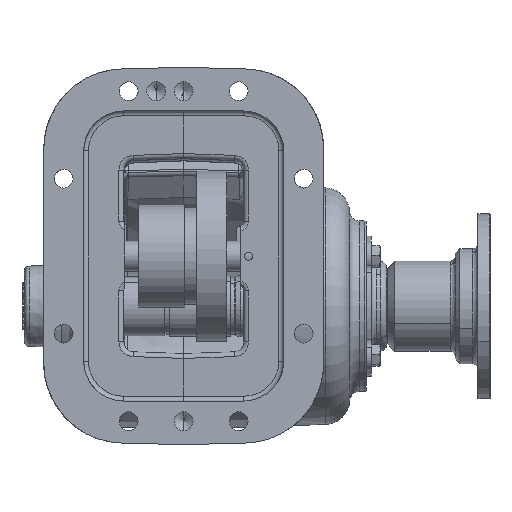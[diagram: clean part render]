
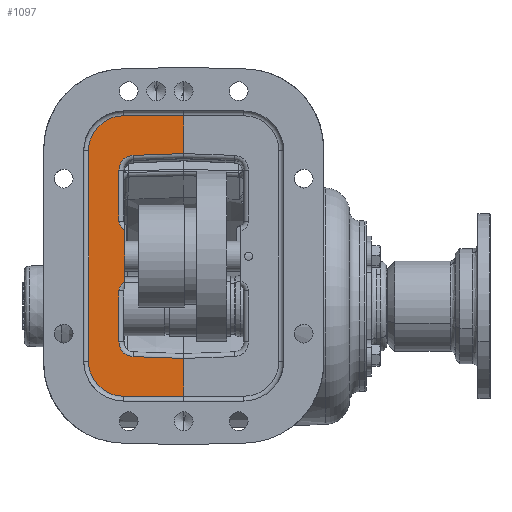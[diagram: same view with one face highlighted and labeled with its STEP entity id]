
A CAD part, front view. The second image highlights one B-rep face of the part: STEP entity #1097.
In plain terms, the highlighted planar face has unit normal (0, -1, 0).
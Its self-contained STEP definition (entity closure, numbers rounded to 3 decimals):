
#1097 = ADVANCED_FACE ( 'NONE', ( #123568 ), #7047, .F. ) ;
#7042 = DIRECTION ( 'NONE',  ( 0., 0., -1. ) ) ;
#7044 = DIRECTION ( 'NONE',  ( 0., 1., 0. ) ) ;
#7047 = PLANE ( 'NONE',  #79635 ) ;
#7052 = CARTESIAN_POINT ( 'NONE',  ( -99.29, -133.047, -95.578 ) ) ;
#12437 = VERTEX_POINT ( 'NONE', #85986 ) ;
#12438 = VERTEX_POINT ( 'NONE', #85987 ) ;
#12443 = VERTEX_POINT ( 'NONE', #85992 ) ;
#12444 = VERTEX_POINT ( 'NONE', #85993 ) ;
#12451 = VERTEX_POINT ( 'NONE', #86000 ) ;
#12453 = VERTEX_POINT ( 'NONE', #86002 ) ;
#12454 = VERTEX_POINT ( 'NONE', #86003 ) ;
#12460 = VERTEX_POINT ( 'NONE', #86009 ) ;
#12461 = VERTEX_POINT ( 'NONE', #86010 ) ;
#12462 = VERTEX_POINT ( 'NONE', #86011 ) ;
#12463 = VERTEX_POINT ( 'NONE', #86012 ) ;
#12464 = VERTEX_POINT ( 'NONE', #86013 ) ;
#12465 = VERTEX_POINT ( 'NONE', #86014 ) ;
#12466 = VERTEX_POINT ( 'NONE', #86015 ) ;
#12467 = VERTEX_POINT ( 'NONE', #86016 ) ;
#12470 = VERTEX_POINT ( 'NONE', #86019 ) ;
#32799 = AXIS2_PLACEMENT_3D ( 'NONE', #125474, #125476, #125478 ) ;
#32802 = AXIS2_PLACEMENT_3D ( 'NONE', #125507, #125508, #125510 ) ;
#32804 = AXIS2_PLACEMENT_3D ( 'NONE', #125549, #125552, #125555 ) ;
#32806 = AXIS2_PLACEMENT_3D ( 'NONE', #125583, #125586, #125589 ) ;
#32809 = AXIS2_PLACEMENT_3D ( 'NONE', #125632, #125635, #125638 ) ;
#32811 = AXIS2_PLACEMENT_3D ( 'NONE', #125665, #125668, #125671 ) ;
#43389 = EDGE_LOOP ( 'NONE', ( #67541, #67543, #67545, #67547, #67549, #67551, #67553, #67555, #67557, #67559, #67562, #67565, #67567, #67570, #67573, #67575 ) ) ;
#67541 = ORIENTED_EDGE ( 'NONE', *, *, #77796, .F. ) ;
#67543 = ORIENTED_EDGE ( 'NONE', *, *, #77798, .F. ) ;
#67545 = ORIENTED_EDGE ( 'NONE', *, *, #77800, .F. ) ;
#67547 = ORIENTED_EDGE ( 'NONE', *, *, #77802, .F. ) ;
#67549 = ORIENTED_EDGE ( 'NONE', *, *, #77804, .F. ) ;
#67551 = ORIENTED_EDGE ( 'NONE', *, *, #77762, .T. ) ;
#67553 = ORIENTED_EDGE ( 'NONE', *, *, #77806, .F. ) ;
#67555 = ORIENTED_EDGE ( 'NONE', *, *, #77808, .F. ) ;
#67557 = ORIENTED_EDGE ( 'NONE', *, *, #77810, .F. ) ;
#67559 = ORIENTED_EDGE ( 'NONE', *, *, #77812, .F. ) ;
#67562 = ORIENTED_EDGE ( 'NONE', *, *, #77814, .F. ) ;
#67565 = ORIENTED_EDGE ( 'NONE', *, *, #77750, .T. ) ;
#67567 = ORIENTED_EDGE ( 'NONE', *, *, #77816, .F. ) ;
#67570 = ORIENTED_EDGE ( 'NONE', *, *, #77818, .F. ) ;
#67573 = ORIENTED_EDGE ( 'NONE', *, *, #77820, .F. ) ;
#67575 = ORIENTED_EDGE ( 'NONE', *, *, #77822, .F. ) ;
#77750 = EDGE_CURVE ( 'NONE', #12438, #12437, #90613, .T. ) ;
#77762 = EDGE_CURVE ( 'NONE', #12444, #12443, #90629, .T. ) ;
#77796 = EDGE_CURVE ( 'NONE', #12460, #12454, #90642, .T. ) ;
#77798 = EDGE_CURVE ( 'NONE', #12461, #12460, #90658, .T. ) ;
#77800 = EDGE_CURVE ( 'NONE', #12462, #12461, #90659, .T. ) ;
#77802 = EDGE_CURVE ( 'NONE', #12453, #12462, #90663, .T. ) ;
#77804 = EDGE_CURVE ( 'NONE', #12444, #12453, #90661, .T. ) ;
#77806 = EDGE_CURVE ( 'NONE', #12451, #12443, #90668, .T. ) ;
#77808 = EDGE_CURVE ( 'NONE', #12466, #12451, #90670, .T. ) ;
#77810 = EDGE_CURVE ( 'NONE', #12463, #12466, #90673, .T. ) ;
#77812 = EDGE_CURVE ( 'NONE', #12464, #12463, #90672, .T. ) ;
#77814 = EDGE_CURVE ( 'NONE', #12438, #12464, #90678, .T. ) ;
#77816 = EDGE_CURVE ( 'NONE', #12465, #12437, #90680, .T. ) ;
#77818 = EDGE_CURVE ( 'NONE', #12470, #12465, #90684, .T. ) ;
#77820 = EDGE_CURVE ( 'NONE', #12467, #12470, #90682, .T. ) ;
#77822 = EDGE_CURVE ( 'NONE', #12454, #12467, #90689, .T. ) ;
#79635 = AXIS2_PLACEMENT_3D ( 'NONE', #7052, #7044, #7042 ) ;
#85986 = CARTESIAN_POINT ( 'NONE',  ( -10.39, -133.047, -43.129 ) ) ;
#85987 = CARTESIAN_POINT ( 'NONE',  ( -10.39, -133.047, -67.13 ) ) ;
#85992 = CARTESIAN_POINT ( 'NONE',  ( -10.39, -133.047, 110.924 ) ) ;
#85993 = CARTESIAN_POINT ( 'NONE',  ( -10.39, -133.047, 86.923 ) ) ;
#86000 = CARTESIAN_POINT ( 'NONE',  ( -48.49, -133.047, 110.924 ) ) ;
#86002 = CARTESIAN_POINT ( 'NONE',  ( -42.468, -133.047, 85.803 ) ) ;
#86003 = CARTESIAN_POINT ( 'NONE',  ( -47.728, -133.047, 5.386 ) ) ;
#86009 = CARTESIAN_POINT ( 'NONE',  ( -47.728, -133.047, 38.408 ) ) ;
#86010 = CARTESIAN_POINT ( 'NONE',  ( -51.538, -133.047, 44.059 ) ) ;
#86011 = CARTESIAN_POINT ( 'NONE',  ( -51.538, -133.047, 76.41 ) ) ;
#86012 = CARTESIAN_POINT ( 'NONE',  ( -70.842, -133.047, -44.778 ) ) ;
#86013 = CARTESIAN_POINT ( 'NONE',  ( -48.49, -133.047, -67.13 ) ) ;
#86014 = CARTESIAN_POINT ( 'NONE',  ( -42.468, -133.047, -42.009 ) ) ;
#86015 = CARTESIAN_POINT ( 'NONE',  ( -70.842, -133.047, 88.572 ) ) ;
#86016 = CARTESIAN_POINT ( 'NONE',  ( -51.538, -133.047, -0.265 ) ) ;
#86019 = CARTESIAN_POINT ( 'NONE',  ( -51.538, -133.047, -32.617 ) ) ;
#90613 = LINE ( 'NONE', #124632, #90614 ) ;
#90614 = VECTOR ( 'NONE', #124629, 1000. ) ;
#90629 = LINE ( 'NONE', #124756, #90630 ) ;
#90630 = VECTOR ( 'NONE', #124755, 1000. ) ;
#90642 = LINE ( 'NONE', #125429, #90657 ) ;
#90657 = VECTOR ( 'NONE', #125446, 1000. ) ;
#90658 = CIRCLE ( 'NONE', #32799, 6.096 ) ;
#90659 = LINE ( 'NONE', #125482, #90662 ) ;
#90661 = LINE ( 'NONE', #125504, #90667 ) ;
#90662 = VECTOR ( 'NONE', #125486, 1000. ) ;
#90663 = CIRCLE ( 'NONE', #32802, 9.398 ) ;
#90667 = VECTOR ( 'NONE', #125516, 1000. ) ;
#90668 = LINE ( 'NONE', #125525, #90669 ) ;
#90669 = VECTOR ( 'NONE', #125523, 1000. ) ;
#90670 = CIRCLE ( 'NONE', #32804, 22.352 ) ;
#90672 = CIRCLE ( 'NONE', #32806, 22.352 ) ;
#90673 = LINE ( 'NONE', #125520, #90674 ) ;
#90674 = VECTOR ( 'NONE', #125557, 1000. ) ;
#90678 = LINE ( 'NONE', #125564, #90679 ) ;
#90679 = VECTOR ( 'NONE', #125590, 1000. ) ;
#90680 = LINE ( 'NONE', #125609, #90683 ) ;
#90682 = LINE ( 'NONE', #125630, #90688 ) ;
#90683 = VECTOR ( 'NONE', #125612, 1000. ) ;
#90684 = CIRCLE ( 'NONE', #32809, 9.398 ) ;
#90688 = VECTOR ( 'NONE', #125642, 1000. ) ;
#90689 = CIRCLE ( 'NONE', #32811, 6.096 ) ;
#123568 = FACE_OUTER_BOUND ( 'NONE', #43389, .T. ) ;
#124629 = DIRECTION ( 'NONE',  ( 0., 0., 1. ) ) ;
#124632 = CARTESIAN_POINT ( 'NONE',  ( -10.39, -133.047, -95.578 ) ) ;
#124755 = DIRECTION ( 'NONE',  ( 0., 0., 1. ) ) ;
#124756 = CARTESIAN_POINT ( 'NONE',  ( -10.39, -133.047, -95.578 ) ) ;
#125429 = CARTESIAN_POINT ( 'NONE',  ( -47.728, -133.047, -95.578 ) ) ;
#125446 = DIRECTION ( 'NONE',  ( 0., 0., -1. ) ) ;
#125474 = CARTESIAN_POINT ( 'NONE',  ( -45.442, -133.047, 44.059 ) ) ;
#125476 = DIRECTION ( 'NONE',  ( 0., -1., 0. ) ) ;
#125478 = DIRECTION ( 'NONE',  ( 0., 0., -1. ) ) ;
#125482 = CARTESIAN_POINT ( 'NONE',  ( -51.538, -133.047, 44.059 ) ) ;
#125486 = DIRECTION ( 'NONE',  ( 0., 0., -1. ) ) ;
#125504 = CARTESIAN_POINT ( 'NONE',  ( -42.468, -133.047, 85.803 ) ) ;
#125507 = CARTESIAN_POINT ( 'NONE',  ( -42.14, -133.047, 76.41 ) ) ;
#125508 = DIRECTION ( 'NONE',  ( 0., -1., 0. ) ) ;
#125510 = DIRECTION ( 'NONE',  ( 0., 0., -1. ) ) ;
#125516 = DIRECTION ( 'NONE',  ( -0.999, 0., -0.035 ) ) ;
#125520 = CARTESIAN_POINT ( 'NONE',  ( -70.842, -133.047, 88.572 ) ) ;
#125523 = DIRECTION ( 'NONE',  ( 1., 0., 0. ) ) ;
#125525 = CARTESIAN_POINT ( 'NONE',  ( -10.39, -133.047, 110.924 ) ) ;
#125549 = CARTESIAN_POINT ( 'NONE',  ( -48.49, -133.047, 88.572 ) ) ;
#125552 = DIRECTION ( 'NONE',  ( 0., 1., 0. ) ) ;
#125555 = DIRECTION ( 'NONE',  ( 0., 0., -1. ) ) ;
#125557 = DIRECTION ( 'NONE',  ( 0., 0., 1. ) ) ;
#125564 = CARTESIAN_POINT ( 'NONE',  ( -48.49, -133.047, -67.13 ) ) ;
#125583 = CARTESIAN_POINT ( 'NONE',  ( -48.49, -133.047, -44.778 ) ) ;
#125586 = DIRECTION ( 'NONE',  ( 0., 1., 0. ) ) ;
#125589 = DIRECTION ( 'NONE',  ( 0., 0., -1. ) ) ;
#125590 = DIRECTION ( 'NONE',  ( -1., 0., 0. ) ) ;
#125609 = CARTESIAN_POINT ( 'NONE',  ( -10.497, -133.047, -43.125 ) ) ;
#125612 = DIRECTION ( 'NONE',  ( 0.999, 0., -0.035 ) ) ;
#125630 = CARTESIAN_POINT ( 'NONE',  ( -51.538, -133.047, -32.617 ) ) ;
#125632 = CARTESIAN_POINT ( 'NONE',  ( -42.14, -133.047, -32.617 ) ) ;
#125635 = DIRECTION ( 'NONE',  ( 0., -1., 0. ) ) ;
#125638 = DIRECTION ( 'NONE',  ( 0., 0., -1. ) ) ;
#125642 = DIRECTION ( 'NONE',  ( 0., 0., -1. ) ) ;
#125665 = CARTESIAN_POINT ( 'NONE',  ( -45.442, -133.047, -0.265 ) ) ;
#125668 = DIRECTION ( 'NONE',  ( 0., -1., 0. ) ) ;
#125671 = DIRECTION ( 'NONE',  ( 0., 0., -1. ) ) ;
